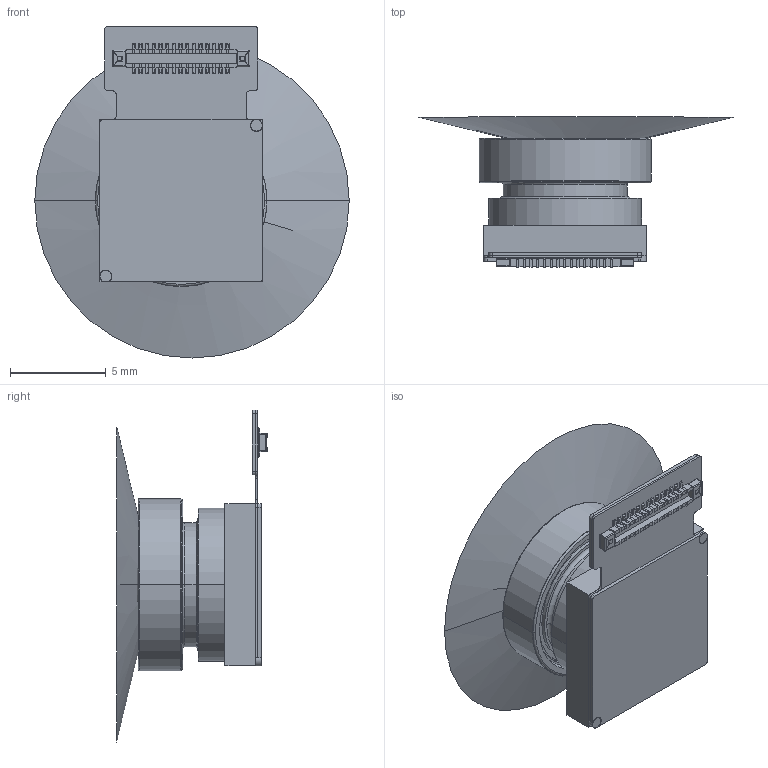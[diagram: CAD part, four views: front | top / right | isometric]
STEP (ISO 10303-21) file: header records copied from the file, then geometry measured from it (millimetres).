
FILE_DESCRIPTION((''),'2;1');
FILE_NAME('CU1121-B_ASM','2023-05-23T',('笢侅嫖萇'),(''),'PRO/ENGINEER BY PARAMETRIC TECHNOLOGY CORPORATION, 2013240','PRO/ENGINEER BY PARAMETRIC TECHNOLOGY CORPORATION, 2013240','');
FILE_SCHEMA(('AUTOMOTIVE_DESIGN_CC2 { 1 2 10303 214 -1 1 5 2 }'));
Products named in the file (15): FPC; STEEL-1; STEEL-2; FPC-ASM_ASM; 00_5; 00_3-58114; 00_7; 00_1; 00_3-62643; 00_3-63062; VD56G3000_ASM_8_ASM; HD85300725-A; BM28B06-30DP; 8090-90A2-FF90; CU1121-B_ASM
Assembly tree (23 placements, depth 3):
  CU1121-B_ASM
    FPC-ASM_ASM
      FPC
      STEEL-1
      STEEL-2
    VD56G3000_ASM_8_ASM
      00_5
      00_3-58114
      00_7
      00_1  x10
      00_3-62643
      00_3-63062
    HD85300725-A
    BM28B06-30DP
    8090-90A2-FF90
Bounding box: 16.46 x 7.86 x 17.38 mm (x, y, z)
Volume: 345.2 mm3; surface area: 1491.5 mm2
Topology: 20 solids, 51 shells, 2397 faces, 7145 edges, 5851 vertices
Faces by surface type: plane 2199, cone 116, cylinder 68, torus 8, bspline 4, revolution 2
Entity records: 99559 total; most frequent: CARTESIAN_POINT 14627, DIRECTION 11678, ORIENTED_EDGE 10800, PRESENTATION_STYLE_ASSIGNMENT 6712, STYLED_ITEM 6504, VECTOR 6300, LINE 6300, CURVE_STYLE 5562
